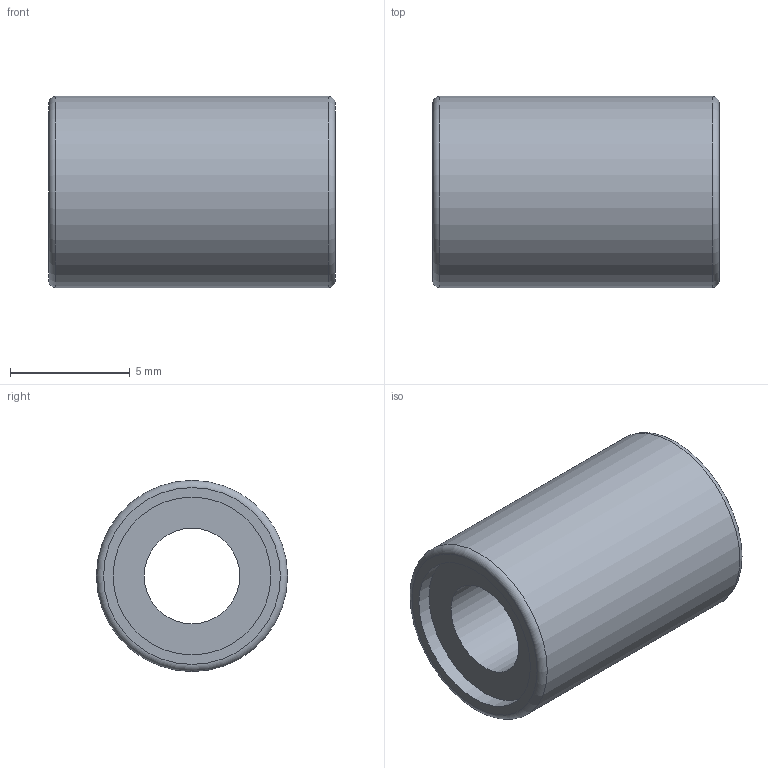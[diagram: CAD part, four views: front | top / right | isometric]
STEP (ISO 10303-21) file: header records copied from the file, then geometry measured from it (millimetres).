
FILE_DESCRIPTION( ( 'Unknown' ), '1' );
FILE_NAME( 'D:/累诀/己绕皋墨飘肺葱胶/11-04-06_档搁累己/01_府聪绢何教/LM/LM4.stp', 'Unknown', ( 'Unknown' ), ( 'Unknown' ), 'PSStep 11.0', 'Unknown', ' ' );
FILE_SCHEMA( ( 'AUTOMOTIVE_DESIGN { 1 0 10303 214 1 1 1 1 }' ) );
Length unit declared in the file: millimetre
Products named in the file (1): 1
Bounding box: 12 x 8 x 8 mm (x, y, z)
Volume: 425.5 mm3; surface area: 531 mm2
Topology: 1 solids, 1 shells, 10 faces, 18 edges, 12 vertices
Faces by surface type: plane 4, cylinder 4, torus 2
Full cylindrical faces by diameter (mm): 4 x1, 6.6 x2, 8 x1
Entity records: 304 total; most frequent: DIRECTION 42, CARTESIAN_POINT 31, AXIS2_PLACEMENT_3D 21, EDGE_LOOP 20, ORIENTED_EDGE 20, FACE_OUTER_BOUND 16, STYLED_ITEM 10, PRESENTATION_STYLE_ASSIGNMENT 10
